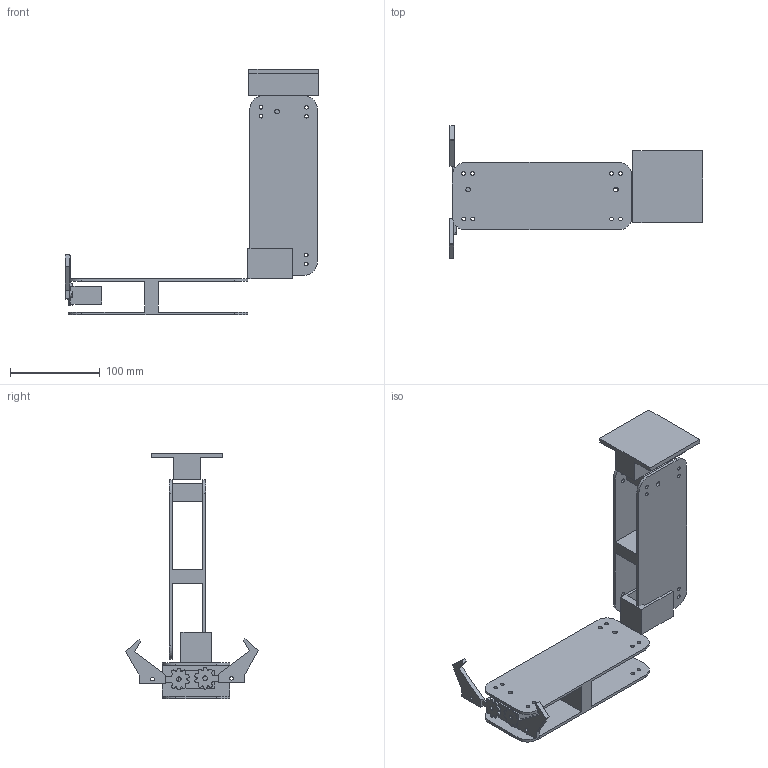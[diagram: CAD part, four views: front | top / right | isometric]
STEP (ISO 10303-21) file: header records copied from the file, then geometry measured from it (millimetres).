
FILE_DESCRIPTION(/* description */ ('STEP AP242','CAx-IF Rec.Pracs.---Representation and Presentation of Product Manufacturing Information (PMI)---4.0---2014-10-13','CAx-IF Rec.Pracs.---3D Tessellated Geometry---0.4---2014-09-14','2;1'),/* implementation_level */ '2;1');
FILE_NAME(/* name */ '65d97b2626fcd7072ec13f83',/* time_stamp */ '2024-02-24T05:14:14Z',/* author */ (''),/* organization */ (''),/* preprocessor_version */ 'ST-DEVELOPER v19.4',/* originating_system */ ' ',/* authorisation */ ' ');
FILE_SCHEMA (('AP242_MANAGED_MODEL_BASED_3D_ENGINEERING_MIM_LF { 1 0 10303 442 1 1 4 }'));
Length unit declared in the file: metre
Products named in the file (7): Assembly 1; Part 1
Assembly tree (10 placements, depth 2):
  Assembly 1
    Part 1  x2
    Part 1  x2
    Part 1  x2
    Part 1
    Part 1
    Part 1  x2
Bounding box: 281.69 x 147.88 x 273.71 mm (x, y, z)
Volume: 437821.4 mm3; surface area: 181915.2 mm2
Topology: 10 solids, 10 shells, 226 faces, 622 edges, 416 vertices
Faces by surface type: cylinder 134, plane 92
Full cylindrical faces by diameter (mm): 4 x4, 4.1 x32, 5.1 x10
Entity records: 4102 total; most frequent: DIRECTION 712, CARTESIAN_POINT 666, ORIENTED_EDGE 620, EDGE_CURVE 310, AXIS2_PLACEMENT_3D 268, VERTEX_POINT 222, EDGE_LOOP 192, FACE_BOUND 192
